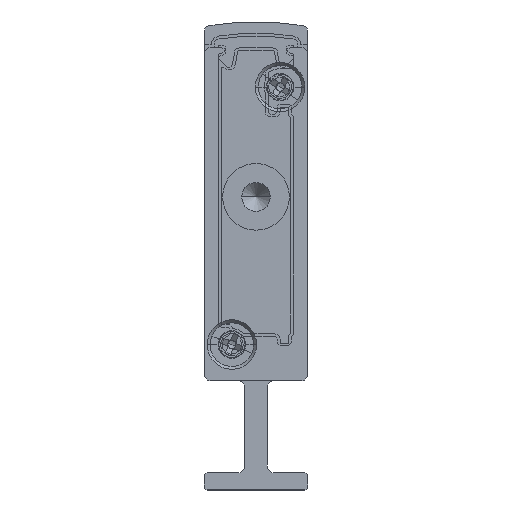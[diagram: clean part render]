
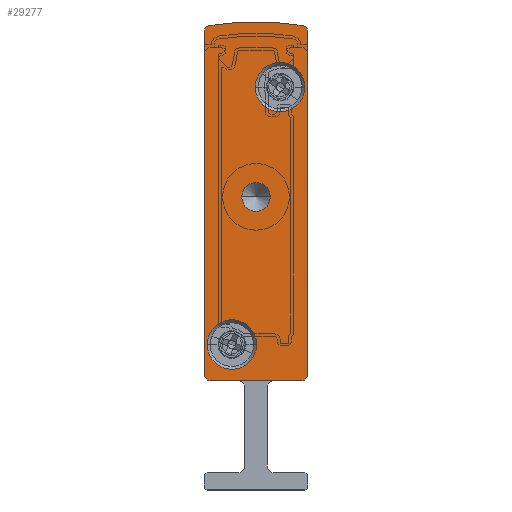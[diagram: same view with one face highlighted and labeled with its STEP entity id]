
A CAD part, front view. The second image highlights one B-rep face of the part: STEP entity #29277.
In plain terms, the highlighted planar face has unit normal (0, -1, 0).
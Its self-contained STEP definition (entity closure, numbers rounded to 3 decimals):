
#7 = CARTESIAN_POINT ( 'NONE',  ( 0.408, -2.5, 40.393 ) ) ;
#306 = VERTEX_POINT ( 'NONE', #20514 ) ;
#812 = EDGE_CURVE ( 'NONE', #31741, #24508, #3912, .T. ) ;
#827 = CIRCLE ( 'NONE', #25412, 0.5 ) ;
#1017 = AXIS2_PLACEMENT_3D ( 'NONE', #5106, #31008, #2864 ) ;
#1226 = FACE_BOUND ( 'NONE', #13045, .T. ) ;
#1327 = LINE ( 'NONE', #18210, #32307 ) ;
#2086 = EDGE_CURVE ( 'NONE', #24508, #31741, #13431, .T. ) ;
#2264 = CARTESIAN_POINT ( 'NONE',  ( 4.5, -2.5, 17.092 ) ) ;
#2666 = AXIS2_PLACEMENT_3D ( 'NONE', #13040, #12710, #15309 ) ;
#2864 = DIRECTION ( 'NONE',  ( 1., 0., 0. ) ) ;
#3003 = ORIENTED_EDGE ( 'NONE', *, *, #26892, .F. ) ;
#3589 = AXIS2_PLACEMENT_3D ( 'NONE', #30888, #12752, #15350 ) ;
#3912 = CIRCLE ( 'NONE', #4268, 1.25 ) ;
#3948 = ORIENTED_EDGE ( 'NONE', *, *, #14285, .F. ) ;
#4268 = AXIS2_PLACEMENT_3D ( 'NONE', #20582, #7939, #23286 ) ;
#4737 = CARTESIAN_POINT ( 'NONE',  ( 0.5, -2.5, 39.902 ) ) ;
#4843 = DIRECTION ( 'NONE',  ( 0., 1., 0. ) ) ;
#4942 = VERTEX_POINT ( 'NONE', #12020 ) ;
#5106 = CARTESIAN_POINT ( 'NONE',  ( 6.6, -2.5, 35.05 ) ) ;
#6102 = DIRECTION ( 'NONE',  ( -1., 0., 0. ) ) ;
#6726 = AXIS2_PLACEMENT_3D ( 'NONE', #29272, #21587, #24157 ) ;
#6856 = CARTESIAN_POINT ( 'NONE',  ( 9., -2.5, 10. ) ) ;
#7033 = DIRECTION ( 'NONE',  ( 0., 1., 0. ) ) ;
#7201 = FACE_OUTER_BOUND ( 'NONE', #32990, .T. ) ;
#7582 = CARTESIAN_POINT ( 'NONE',  ( 8.75, -2.5, 35.05 ) ) ;
#7602 = VERTEX_POINT ( 'NONE', #31662 ) ;
#7939 = DIRECTION ( 'NONE',  ( 0., 1., 0. ) ) ;
#8624 = VERTEX_POINT ( 'NONE', #12623 ) ;
#8637 = CIRCLE ( 'NONE', #1017, 2.15 ) ;
#8871 = EDGE_CURVE ( 'NONE', #31718, #26052, #23871, .T. ) ;
#10288 = ORIENTED_EDGE ( 'NONE', *, *, #10880, .F. ) ;
#10593 = CIRCLE ( 'NONE', #3589, 2.15 ) ;
#10880 = EDGE_CURVE ( 'NONE', #16931, #31718, #24335, .T. ) ;
#11131 = DIRECTION ( 'NONE',  ( -1., 0., 0. ) ) ;
#11344 = CARTESIAN_POINT ( 'NONE',  ( 0.5, -2.5, 9.5 ) ) ;
#11377 = AXIS2_PLACEMENT_3D ( 'NONE', #24951, #7033, #25179 ) ;
#11414 = EDGE_CURVE ( 'NONE', #8624, #306, #22270, .T. ) ;
#11473 = CARTESIAN_POINT ( 'NONE',  ( 3.25, -2.5, 25.5 ) ) ;
#11638 = AXIS2_PLACEMENT_3D ( 'NONE', #32832, #22807, #12561 ) ;
#11865 = CIRCLE ( 'NONE', #16223, 2.15 ) ;
#12020 = CARTESIAN_POINT ( 'NONE',  ( 8.592, -2.5, 40.393 ) ) ;
#12554 = CIRCLE ( 'NONE', #31013, 0.5 ) ;
#12561 = DIRECTION ( 'NONE',  ( -1., 0., 0. ) ) ;
#12623 = CARTESIAN_POINT ( 'NONE',  ( 0., -2.5, 10. ) ) ;
#12710 = DIRECTION ( 'NONE',  ( 0., -1., 0. ) ) ;
#12752 = DIRECTION ( 'NONE',  ( 0., -1., 0. ) ) ;
#13040 = CARTESIAN_POINT ( 'NONE',  ( 6.6, -2.5, 35.05 ) ) ;
#13045 = EDGE_LOOP ( 'NONE', ( #32433, #19806 ) ) ;
#13053 = ORIENTED_EDGE ( 'NONE', *, *, #23182, .F. ) ;
#13422 = EDGE_CURVE ( 'NONE', #4942, #7602, #12554, .T. ) ;
#13431 = CIRCLE ( 'NONE', #21513, 1.25 ) ;
#14100 = FACE_BOUND ( 'NONE', #21008, .T. ) ;
#14285 = EDGE_CURVE ( 'NONE', #306, #22666, #827, .T. ) ;
#14421 = DIRECTION ( 'NONE',  ( 0., -1., 0. ) ) ;
#15309 = DIRECTION ( 'NONE',  ( 1., 0., 0. ) ) ;
#15350 = DIRECTION ( 'NONE',  ( 1., 0., 0. ) ) ;
#15708 = DIRECTION ( 'NONE',  ( 0., 0., -1. ) ) ;
#16223 = AXIS2_PLACEMENT_3D ( 'NONE', #16886, #14421, #19354 ) ;
#16886 = CARTESIAN_POINT ( 'NONE',  ( 2.4, -2.5, 12.65 ) ) ;
#16910 = VERTEX_POINT ( 'NONE', #30091 ) ;
#16931 = VERTEX_POINT ( 'NONE', #6856 ) ;
#17235 = CIRCLE ( 'NONE', #2666, 2.15 ) ;
#17508 = VERTEX_POINT ( 'NONE', #29115 ) ;
#17579 = CARTESIAN_POINT ( 'NONE',  ( 0.25, -2.5, 12.65 ) ) ;
#17738 = AXIS2_PLACEMENT_3D ( 'NONE', #2264, #4843, #27911 ) ;
#17846 = EDGE_CURVE ( 'NONE', #7602, #16931, #1327, .T. ) ;
#18007 = CIRCLE ( 'NONE', #17738, 23.658 ) ;
#18210 = CARTESIAN_POINT ( 'NONE',  ( 9., -2.5, 39.902 ) ) ;
#18262 = ORIENTED_EDGE ( 'NONE', *, *, #812, .T. ) ;
#19045 = VECTOR ( 'NONE', #22472, 1000. ) ;
#19354 = DIRECTION ( 'NONE',  ( 1., 0., 0. ) ) ;
#19597 = VERTEX_POINT ( 'NONE', #17579 ) ;
#19740 = FACE_BOUND ( 'NONE', #22621, .T. ) ;
#19806 = ORIENTED_EDGE ( 'NONE', *, *, #27146, .F. ) ;
#20029 = DIRECTION ( 'NONE',  ( -1., 0., 0. ) ) ;
#20197 = ORIENTED_EDGE ( 'NONE', *, *, #25330, .F. ) ;
#20514 = CARTESIAN_POINT ( 'NONE',  ( 0., -2.5, 39.902 ) ) ;
#20582 = CARTESIAN_POINT ( 'NONE',  ( 4.5, -2.5, 25.5 ) ) ;
#20811 = ORIENTED_EDGE ( 'NONE', *, *, #2086, .T. ) ;
#21008 = EDGE_LOOP ( 'NONE', ( #18262, #20811 ) ) ;
#21395 = EDGE_CURVE ( 'NONE', #19597, #16910, #10593, .T. ) ;
#21513 = AXIS2_PLACEMENT_3D ( 'NONE', #26530, #26644, #11131 ) ;
#21587 = DIRECTION ( 'NONE',  ( 0., 1., 0. ) ) ;
#22270 = LINE ( 'NONE', #27510, #19045 ) ;
#22379 = PLANE ( 'NONE',  #11377 ) ;
#22472 = DIRECTION ( 'NONE',  ( 0., 0., 1. ) ) ;
#22621 = EDGE_LOOP ( 'NONE', ( #3003, #24125 ) ) ;
#22666 = VERTEX_POINT ( 'NONE', #7 ) ;
#22807 = DIRECTION ( 'NONE',  ( 0., 1., 0. ) ) ;
#22894 = ORIENTED_EDGE ( 'NONE', *, *, #11414, .F. ) ;
#23104 = VECTOR ( 'NONE', #24608, 1000. ) ;
#23182 = EDGE_CURVE ( 'NONE', #22666, #4942, #18007, .T. ) ;
#23273 = ORIENTED_EDGE ( 'NONE', *, *, #17846, .F. ) ;
#23286 = DIRECTION ( 'NONE',  ( -1., 0., 0. ) ) ;
#23761 = ORIENTED_EDGE ( 'NONE', *, *, #8871, .F. ) ;
#23871 = LINE ( 'NONE', #11344, #23104 ) ;
#23890 = DIRECTION ( 'NONE',  ( 0., 1., 0. ) ) ;
#24125 = ORIENTED_EDGE ( 'NONE', *, *, #21395, .F. ) ;
#24157 = DIRECTION ( 'NONE',  ( -1., 0., 0. ) ) ;
#24335 = CIRCLE ( 'NONE', #6726, 0.5 ) ;
#24508 = VERTEX_POINT ( 'NONE', #26841 ) ;
#24608 = DIRECTION ( 'NONE',  ( -1., 0., 0. ) ) ;
#24951 = CARTESIAN_POINT ( 'NONE',  ( 0.5, -2.5, 39.902 ) ) ;
#25179 = DIRECTION ( 'NONE',  ( -1., 0., 0. ) ) ;
#25330 = EDGE_CURVE ( 'NONE', #26052, #8624, #27342, .T. ) ;
#25412 = AXIS2_PLACEMENT_3D ( 'NONE', #4737, #30412, #20029 ) ;
#26052 = VERTEX_POINT ( 'NONE', #32355 ) ;
#26350 = ORIENTED_EDGE ( 'NONE', *, *, #13422, .F. ) ;
#26497 = CARTESIAN_POINT ( 'NONE',  ( 8.5, -2.5, 39.902 ) ) ;
#26530 = CARTESIAN_POINT ( 'NONE',  ( 4.5, -2.5, 25.5 ) ) ;
#26644 = DIRECTION ( 'NONE',  ( 0., 1., 0. ) ) ;
#26841 = CARTESIAN_POINT ( 'NONE',  ( 5.75, -2.5, 25.5 ) ) ;
#26892 = EDGE_CURVE ( 'NONE', #16910, #19597, #11865, .T. ) ;
#27146 = EDGE_CURVE ( 'NONE', #17508, #32628, #17235, .T. ) ;
#27342 = CIRCLE ( 'NONE', #11638, 0.5 ) ;
#27510 = CARTESIAN_POINT ( 'NONE',  ( 0., -2.5, 39.902 ) ) ;
#27911 = DIRECTION ( 'NONE',  ( -1., 0., 0. ) ) ;
#29115 = CARTESIAN_POINT ( 'NONE',  ( 4.45, -2.5, 35.05 ) ) ;
#29272 = CARTESIAN_POINT ( 'NONE',  ( 8.5, -2.5, 10. ) ) ;
#29277 = ADVANCED_FACE ( 'NONE', ( #1226, #19740, #7201, #14100 ), #22379, .F. ) ;
#30091 = CARTESIAN_POINT ( 'NONE',  ( 4.55, -2.5, 12.65 ) ) ;
#30412 = DIRECTION ( 'NONE',  ( 0., 1., 0. ) ) ;
#30888 = CARTESIAN_POINT ( 'NONE',  ( 2.4, -2.5, 12.65 ) ) ;
#31008 = DIRECTION ( 'NONE',  ( 0., -1., 0. ) ) ;
#31013 = AXIS2_PLACEMENT_3D ( 'NONE', #26497, #23890, #6102 ) ;
#31662 = CARTESIAN_POINT ( 'NONE',  ( 9., -2.5, 39.902 ) ) ;
#31718 = VERTEX_POINT ( 'NONE', #32161 ) ;
#31741 = VERTEX_POINT ( 'NONE', #11473 ) ;
#32161 = CARTESIAN_POINT ( 'NONE',  ( 8.5, -2.5, 9.5 ) ) ;
#32307 = VECTOR ( 'NONE', #15708, 1000. ) ;
#32355 = CARTESIAN_POINT ( 'NONE',  ( 0.5, -2.5, 9.5 ) ) ;
#32433 = ORIENTED_EDGE ( 'NONE', *, *, #33081, .F. ) ;
#32628 = VERTEX_POINT ( 'NONE', #7582 ) ;
#32832 = CARTESIAN_POINT ( 'NONE',  ( 0.5, -2.5, 10. ) ) ;
#32990 = EDGE_LOOP ( 'NONE', ( #3948, #22894, #20197, #23761, #10288, #23273, #26350, #13053 ) ) ;
#33081 = EDGE_CURVE ( 'NONE', #32628, #17508, #8637, .T. ) ;
